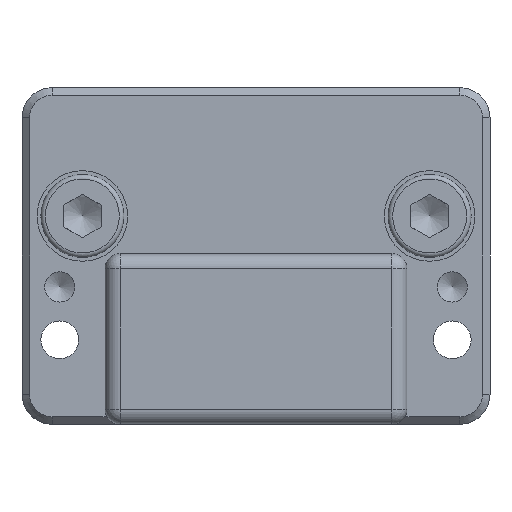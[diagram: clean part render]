
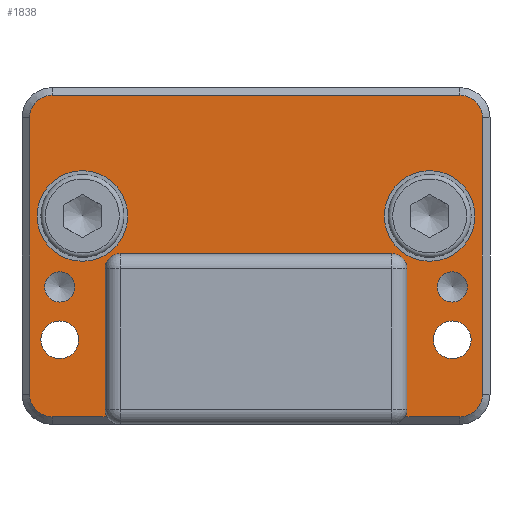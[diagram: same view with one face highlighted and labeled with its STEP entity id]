
A CAD part, front view. The second image highlights one B-rep face of the part: STEP entity #1838.
In plain terms, the highlighted planar face has unit normal (0, -1, 0).
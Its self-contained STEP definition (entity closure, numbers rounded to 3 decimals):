
#46=FACE_BOUND('',#328,.T.);
#47=FACE_BOUND('',#329,.T.);
#48=FACE_BOUND('',#330,.T.);
#49=FACE_BOUND('',#331,.T.);
#50=FACE_BOUND('',#332,.T.);
#51=FACE_BOUND('',#333,.T.);
#102=PLANE('',#2031);
#209=FACE_OUTER_BOUND('',#327,.T.);
#327=EDGE_LOOP('',(#1472,#1473,#1474,#1475,#1476,#1477,#1478,#1479,#1480,
#1481,#1482,#1483,#1484,#1485,#1486,#1487));
#328=EDGE_LOOP('',(#1488));
#329=EDGE_LOOP('',(#1489));
#330=EDGE_LOOP('',(#1490));
#331=EDGE_LOOP('',(#1491));
#332=EDGE_LOOP('',(#1492));
#333=EDGE_LOOP('',(#1493));
#410=LINE('',#2849,#551);
#413=LINE('',#2860,#554);
#418=LINE('',#2873,#559);
#422=LINE('',#2885,#563);
#424=LINE('',#2896,#565);
#485=LINE('',#3049,#626);
#486=LINE('',#3053,#627);
#487=LINE('',#3057,#628);
#551=VECTOR('',#2277,10.);
#554=VECTOR('',#2288,10.);
#559=VECTOR('',#2301,10.);
#563=VECTOR('',#2313,10.);
#565=VECTOR('',#2325,10.);
#626=VECTOR('',#2482,10.);
#627=VECTOR('',#2485,10.);
#628=VECTOR('',#2488,10.);
#687=CIRCLE('',#1970,1.5);
#689=CIRCLE('',#1974,1.5);
#691=CIRCLE('',#1978,1.5);
#693=CIRCLE('',#1982,1.5);
#699=CIRCLE('',#2000,1.);
#701=CIRCLE('',#2004,1.);
#708=CIRCLE('',#2032,1.);
#709=CIRCLE('',#2033,1.);
#710=CIRCLE('',#2034,1.);
#711=CIRCLE('',#2035,1.);
#712=CIRCLE('',#2036,3.);
#713=CIRCLE('',#2037,1.25);
#714=CIRCLE('',#2038,1.25);
#715=CIRCLE('',#2039,3.);
#796=VERTEX_POINT('',#2842);
#799=VERTEX_POINT('',#2847);
#801=VERTEX_POINT('',#2853);
#803=VERTEX_POINT('',#2858);
#805=VERTEX_POINT('',#2865);
#807=VERTEX_POINT('',#2871);
#809=VERTEX_POINT('',#2877);
#811=VERTEX_POINT('',#2883);
#813=VERTEX_POINT('',#2889);
#815=VERTEX_POINT('',#2894);
#836=VERTEX_POINT('',#2957);
#839=VERTEX_POINT('',#2966);
#858=VERTEX_POINT('',#3046);
#859=VERTEX_POINT('',#3048);
#860=VERTEX_POINT('',#3050);
#861=VERTEX_POINT('',#3052);
#862=VERTEX_POINT('',#3054);
#863=VERTEX_POINT('',#3056);
#864=VERTEX_POINT('',#3059);
#865=VERTEX_POINT('',#3061);
#866=VERTEX_POINT('',#3063);
#867=VERTEX_POINT('',#3065);
#977=EDGE_CURVE('',#799,#796,#410,.T.);
#980=EDGE_CURVE('',#801,#799,#687,.T.);
#982=EDGE_CURVE('',#803,#801,#413,.T.);
#986=EDGE_CURVE('',#805,#803,#689,.T.);
#989=EDGE_CURVE('',#807,#805,#418,.T.);
#992=EDGE_CURVE('',#809,#807,#691,.T.);
#995=EDGE_CURVE('',#811,#809,#422,.T.);
#998=EDGE_CURVE('',#813,#811,#693,.T.);
#1000=EDGE_CURVE('',#815,#813,#424,.T.);
#1031=EDGE_CURVE('',#836,#836,#699,.T.);
#1035=EDGE_CURVE('',#839,#839,#701,.T.);
#1075=EDGE_CURVE('',#858,#815,#708,.F.);
#1076=EDGE_CURVE('',#858,#859,#485,.T.);
#1077=EDGE_CURVE('',#860,#859,#709,.F.);
#1078=EDGE_CURVE('',#860,#861,#486,.T.);
#1079=EDGE_CURVE('',#861,#862,#710,.T.);
#1080=EDGE_CURVE('',#863,#862,#487,.T.);
#1081=EDGE_CURVE('',#796,#863,#711,.F.);
#1082=EDGE_CURVE('',#864,#864,#712,.T.);
#1083=EDGE_CURVE('',#865,#865,#713,.T.);
#1084=EDGE_CURVE('',#866,#866,#714,.T.);
#1085=EDGE_CURVE('',#867,#867,#715,.T.);
#1472=ORIENTED_EDGE('',*,*,#1000,.F.);
#1473=ORIENTED_EDGE('',*,*,#1075,.F.);
#1474=ORIENTED_EDGE('',*,*,#1076,.T.);
#1475=ORIENTED_EDGE('',*,*,#1077,.F.);
#1476=ORIENTED_EDGE('',*,*,#1078,.T.);
#1477=ORIENTED_EDGE('',*,*,#1079,.T.);
#1478=ORIENTED_EDGE('',*,*,#1080,.F.);
#1479=ORIENTED_EDGE('',*,*,#1081,.F.);
#1480=ORIENTED_EDGE('',*,*,#977,.F.);
#1481=ORIENTED_EDGE('',*,*,#980,.F.);
#1482=ORIENTED_EDGE('',*,*,#982,.F.);
#1483=ORIENTED_EDGE('',*,*,#986,.F.);
#1484=ORIENTED_EDGE('',*,*,#989,.F.);
#1485=ORIENTED_EDGE('',*,*,#992,.F.);
#1486=ORIENTED_EDGE('',*,*,#995,.F.);
#1487=ORIENTED_EDGE('',*,*,#998,.F.);
#1488=ORIENTED_EDGE('',*,*,#1031,.T.);
#1489=ORIENTED_EDGE('',*,*,#1035,.T.);
#1490=ORIENTED_EDGE('',*,*,#1082,.T.);
#1491=ORIENTED_EDGE('',*,*,#1083,.T.);
#1492=ORIENTED_EDGE('',*,*,#1084,.T.);
#1493=ORIENTED_EDGE('',*,*,#1085,.T.);
#1838=ADVANCED_FACE('',(#209,#46,#47,#48,#49,#50,#51),#102,.T.);
#1970=AXIS2_PLACEMENT_3D('',#2855,#2283,#2284);
#1974=AXIS2_PLACEMENT_3D('',#2867,#2295,#2296);
#1978=AXIS2_PLACEMENT_3D('',#2879,#2307,#2308);
#1982=AXIS2_PLACEMENT_3D('',#2891,#2319,#2320);
#2000=AXIS2_PLACEMENT_3D('',#2958,#2381,#2382);
#2004=AXIS2_PLACEMENT_3D('',#2967,#2391,#2392);
#2031=AXIS2_PLACEMENT_3D('',#3045,#2478,#2479);
#2032=AXIS2_PLACEMENT_3D('',#3047,#2480,#2481);
#2033=AXIS2_PLACEMENT_3D('',#3051,#2483,#2484);
#2034=AXIS2_PLACEMENT_3D('',#3055,#2486,#2487);
#2035=AXIS2_PLACEMENT_3D('',#3058,#2489,#2490);
#2036=AXIS2_PLACEMENT_3D('',#3060,#2491,#2492);
#2037=AXIS2_PLACEMENT_3D('',#3062,#2493,#2494);
#2038=AXIS2_PLACEMENT_3D('',#3064,#2495,#2496);
#2039=AXIS2_PLACEMENT_3D('',#3066,#2497,#2498);
#2277=DIRECTION('',(-1.,0.,0.));
#2283=DIRECTION('center_axis',(0.,1.,0.));
#2284=DIRECTION('ref_axis',(0.707,0.,-0.707));
#2288=DIRECTION('',(0.,0.,-1.));
#2295=DIRECTION('center_axis',(0.,1.,0.));
#2296=DIRECTION('ref_axis',(0.707,0.,0.707));
#2301=DIRECTION('',(1.,0.,0.));
#2307=DIRECTION('center_axis',(0.,1.,0.));
#2308=DIRECTION('ref_axis',(-0.707,0.,0.707));
#2313=DIRECTION('',(0.,0.,1.));
#2319=DIRECTION('center_axis',(0.,1.,0.));
#2320=DIRECTION('ref_axis',(-0.707,0.,-0.707));
#2325=DIRECTION('',(-1.,0.,0.));
#2381=DIRECTION('center_axis',(0.,1.,0.));
#2382=DIRECTION('ref_axis',(1.,0.,0.));
#2391=DIRECTION('center_axis',(0.,1.,0.));
#2392=DIRECTION('ref_axis',(1.,0.,0.));
#2478=DIRECTION('center_axis',(0.,-1.,0.));
#2479=DIRECTION('ref_axis',(1.,0.,0.));
#2480=DIRECTION('center_axis',(0.,1.,0.));
#2481=DIRECTION('ref_axis',(-0.707,0.,-0.707));
#2482=DIRECTION('',(0.,0.,1.));
#2483=DIRECTION('center_axis',(0.,1.,0.));
#2484=DIRECTION('ref_axis',(-0.707,0.,0.707));
#2485=DIRECTION('',(1.,0.,0.));
#2486=DIRECTION('center_axis',(0.,1.,0.));
#2487=DIRECTION('ref_axis',(0.707,0.,0.707));
#2488=DIRECTION('',(0.,0.,1.));
#2489=DIRECTION('center_axis',(0.,1.,0.));
#2490=DIRECTION('ref_axis',(0.707,0.,-0.707));
#2491=DIRECTION('center_axis',(0.,1.,0.));
#2492=DIRECTION('ref_axis',(1.,0.,0.));
#2493=DIRECTION('center_axis',(0.,1.,0.));
#2494=DIRECTION('ref_axis',(1.,0.,0.));
#2495=DIRECTION('center_axis',(0.,1.,0.));
#2496=DIRECTION('ref_axis',(1.,0.,0.));
#2497=DIRECTION('center_axis',(0.,1.,0.));
#2498=DIRECTION('ref_axis',(1.,0.,0.));
#2842=CARTESIAN_POINT('',(9.866,-4.4,0.5));
#2847=CARTESIAN_POINT('',(13.5,-4.4,0.5));
#2849=CARTESIAN_POINT('',(-7.75,-4.4,0.5));
#2853=CARTESIAN_POINT('',(15.,-4.4,2.));
#2855=CARTESIAN_POINT('Origin',(13.5,-4.4,2.));
#2858=CARTESIAN_POINT('',(15.,-4.4,20.3));
#2860=CARTESIAN_POINT('',(15.,-4.4,0.));
#2865=CARTESIAN_POINT('',(13.5,-4.4,21.8));
#2867=CARTESIAN_POINT('Origin',(13.5,-4.4,20.3));
#2871=CARTESIAN_POINT('',(-13.5,-4.4,21.8));
#2873=CARTESIAN_POINT('',(-7.75,-4.4,21.8));
#2877=CARTESIAN_POINT('',(-15.,-4.4,20.3));
#2879=CARTESIAN_POINT('Origin',(-13.5,-4.4,20.3));
#2883=CARTESIAN_POINT('',(-15.,-4.4,2.));
#2885=CARTESIAN_POINT('',(-15.,-4.4,0.));
#2889=CARTESIAN_POINT('',(-13.5,-4.4,0.5));
#2891=CARTESIAN_POINT('Origin',(-13.5,-4.4,2.));
#2894=CARTESIAN_POINT('',(-9.866,-4.4,0.5));
#2896=CARTESIAN_POINT('',(-7.75,-4.4,0.5));
#2957=CARTESIAN_POINT('',(12.,-4.4,9.1));
#2958=CARTESIAN_POINT('Origin',(13.,-4.4,9.1));
#2966=CARTESIAN_POINT('',(-14.,-4.4,9.1));
#2967=CARTESIAN_POINT('Origin',(-13.,-4.4,9.1));
#3045=CARTESIAN_POINT('Origin',(-15.5,-4.4,0.));
#3046=CARTESIAN_POINT('',(-10.,-4.4,1.));
#3047=CARTESIAN_POINT('Origin',(-9.,-4.4,1.));
#3048=CARTESIAN_POINT('',(-10.,-4.4,10.3));
#3049=CARTESIAN_POINT('',(-10.,-4.4,0.));
#3050=CARTESIAN_POINT('',(-9.,-4.4,11.3));
#3051=CARTESIAN_POINT('Origin',(-9.,-4.4,10.3));
#3052=CARTESIAN_POINT('',(9.,-4.4,11.3));
#3053=CARTESIAN_POINT('',(-10.,-4.4,11.3));
#3054=CARTESIAN_POINT('',(10.,-4.4,10.3));
#3055=CARTESIAN_POINT('Origin',(9.,-4.4,10.3));
#3056=CARTESIAN_POINT('',(10.,-4.4,1.));
#3057=CARTESIAN_POINT('',(10.,-4.4,0.));
#3058=CARTESIAN_POINT('Origin',(9.,-4.4,1.));
#3059=CARTESIAN_POINT('',(8.5,-4.4,13.8));
#3060=CARTESIAN_POINT('Origin',(11.5,-4.4,13.8));
#3061=CARTESIAN_POINT('',(11.75,-4.4,5.6));
#3062=CARTESIAN_POINT('Origin',(13.,-4.4,5.6));
#3063=CARTESIAN_POINT('',(-14.25,-4.4,5.6));
#3064=CARTESIAN_POINT('Origin',(-13.,-4.4,5.6));
#3065=CARTESIAN_POINT('',(-14.5,-4.4,13.8));
#3066=CARTESIAN_POINT('Origin',(-11.5,-4.4,13.8));
